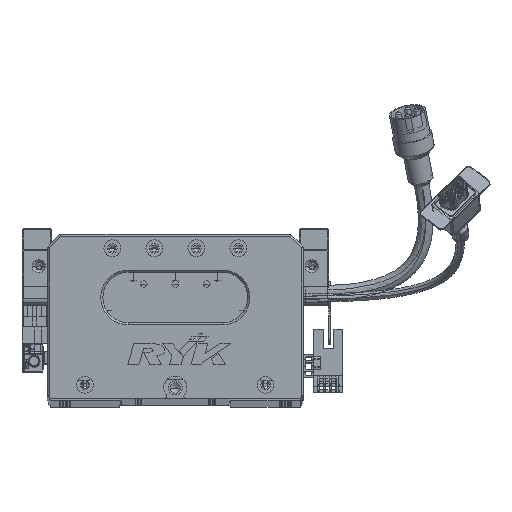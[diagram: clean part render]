
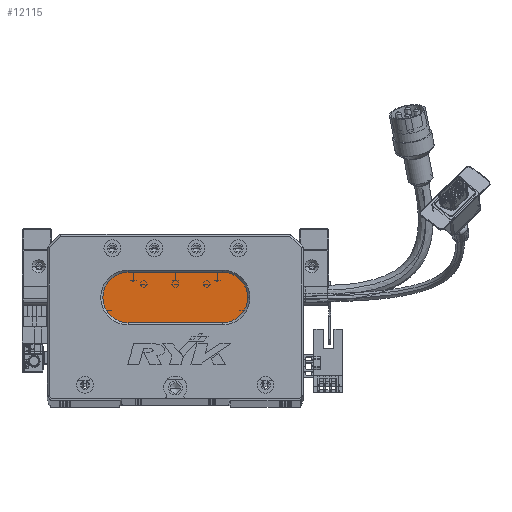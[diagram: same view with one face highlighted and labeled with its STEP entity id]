
A CAD part, top view. The second image highlights one B-rep face of the part: STEP entity #12115.
In plain terms, the highlighted planar face has unit normal (0, 0, 1) as drawn and (0, 0, -1) by its records, which use the part's own axes.
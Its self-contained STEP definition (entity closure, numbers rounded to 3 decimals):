
#1245 = CARTESIAN_POINT ( 'NONE',  ( 26.5, 48., 13. ) ) ;
#2827 = ORIENTED_EDGE ( 'NONE', *, *, #35063, .T. ) ;
#3311 = VERTEX_POINT ( 'NONE', #76943 ) ;
#4320 = ORIENTED_EDGE ( 'NONE', *, *, #95062, .T. ) ;
#5218 = PLANE ( 'NONE',  #69816 ) ;
#5364 = CARTESIAN_POINT ( 'NONE',  ( 83.5, 48., 13. ) ) ;
#6378 = VECTOR ( 'NONE', #43190, 1000. ) ;
#8405 = DIRECTION ( 'NONE',  ( 0., 0., -1. ) ) ;
#11725 = ORIENTED_EDGE ( 'NONE', *, *, #16062, .T. ) ;
#12115 = ADVANCED_FACE ( 'NONE', ( #46082 ), #5218, .T. ) ;
#12590 = VECTOR ( 'NONE', #13486, 1000. ) ;
#13486 = DIRECTION ( 'NONE',  ( 1., 0., 0. ) ) ;
#16062 = EDGE_CURVE ( 'NONE', #22549, #75956, #69193, .T. ) ;
#19349 = CARTESIAN_POINT ( 'NONE',  ( 83.5, 36., 13. ) ) ;
#22549 = VERTEX_POINT ( 'NONE', #1245 ) ;
#23857 = DIRECTION ( 'NONE',  ( -1., 0., 0. ) ) ;
#35063 = EDGE_CURVE ( 'NONE', #75956, #3311, #36406, .T. ) ;
#36406 = LINE ( 'NONE', #67430, #12590 ) ;
#40967 = CARTESIAN_POINT ( 'NONE',  ( 38.5, 48., 13. ) ) ;
#42172 = CIRCLE ( 'NONE', #43391, 12. ) ;
#43190 = DIRECTION ( 'NONE',  ( -1., 0., 0. ) ) ;
#43391 = AXIS2_PLACEMENT_3D ( 'NONE', #5364, #78242, #86272 ) ;
#45844 = DIRECTION ( 'NONE',  ( 0., 0., -1. ) ) ;
#46082 = FACE_OUTER_BOUND ( 'NONE', #90203, .T. ) ;
#50006 = CARTESIAN_POINT ( 'NONE',  ( 38.5, 48., 13. ) ) ;
#51589 = LINE ( 'NONE', #19349, #6378 ) ;
#51643 = ORIENTED_EDGE ( 'NONE', *, *, #73726, .T. ) ;
#52827 = DIRECTION ( 'NONE',  ( -1., 0., 0. ) ) ;
#67430 = CARTESIAN_POINT ( 'NONE',  ( 83.5, 60., 13. ) ) ;
#68786 = AXIS2_PLACEMENT_3D ( 'NONE', #50006, #89257, #81201 ) ;
#69193 = CIRCLE ( 'NONE', #93614, 12. ) ;
#69635 = CARTESIAN_POINT ( 'NONE',  ( 83.5, 48., 13. ) ) ;
#69816 = AXIS2_PLACEMENT_3D ( 'NONE', #69635, #45844, #52827 ) ;
#71224 = VERTEX_POINT ( 'NONE', #100758 ) ;
#73514 = ORIENTED_EDGE ( 'NONE', *, *, #99048, .T. ) ;
#73726 = EDGE_CURVE ( 'NONE', #71224, #22549, #102430, .T. ) ;
#75956 = VERTEX_POINT ( 'NONE', #97104 ) ;
#76943 = CARTESIAN_POINT ( 'NONE',  ( 83.5, 60., 13. ) ) ;
#78242 = DIRECTION ( 'NONE',  ( 0., 0., -1. ) ) ;
#81201 = DIRECTION ( 'NONE',  ( -1., 0., 0. ) ) ;
#86272 = DIRECTION ( 'NONE',  ( -1., 0., 0. ) ) ;
#89257 = DIRECTION ( 'NONE',  ( 0., 0., -1. ) ) ;
#90203 = EDGE_LOOP ( 'NONE', ( #4320, #73514, #51643, #11725, #2827 ) ) ;
#93164 = VERTEX_POINT ( 'NONE', #99042 ) ;
#93614 = AXIS2_PLACEMENT_3D ( 'NONE', #40967, #8405, #23857 ) ;
#95062 = EDGE_CURVE ( 'NONE', #3311, #93164, #42172, .T. ) ;
#97104 = CARTESIAN_POINT ( 'NONE',  ( 38.5, 60., 13. ) ) ;
#99042 = CARTESIAN_POINT ( 'NONE',  ( 83.5, 36., 13. ) ) ;
#99048 = EDGE_CURVE ( 'NONE', #93164, #71224, #51589, .T. ) ;
#100758 = CARTESIAN_POINT ( 'NONE',  ( 38.5, 36., 13. ) ) ;
#102430 = CIRCLE ( 'NONE', #68786, 12. ) ;
